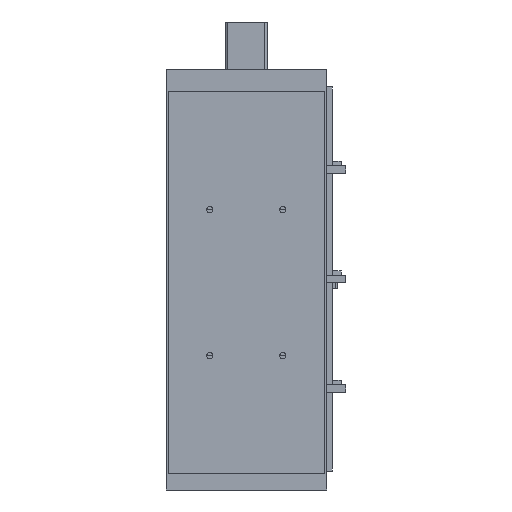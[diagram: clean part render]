
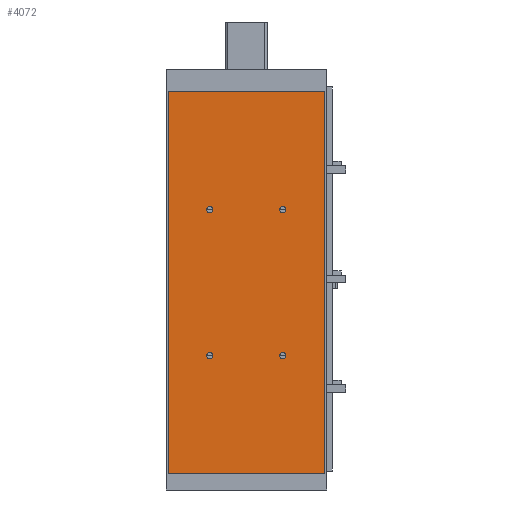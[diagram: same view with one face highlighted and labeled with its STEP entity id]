
A CAD part, front view. The second image highlights one B-rep face of the part: STEP entity #4072.
In plain terms, the highlighted planar face has unit normal (0, -1, 0).
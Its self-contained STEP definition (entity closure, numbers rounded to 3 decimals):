
#3162=CARTESIAN_POINT('',(-107.,0.0,524.0));
#3163=VERTEX_POINT('',#3162);
#3170=CARTESIAN_POINT('',(107.,0.0,524.0));
#3171=VERTEX_POINT('',#3170);
#3172=CARTESIAN_POINT('',(107.,0.0,524.0));
#3173=DIRECTION('',(-1.0,0.0,0.0));
#3174=VECTOR('',#3173,214.);
#3175=LINE('',#3172,#3174);
#3176=EDGE_CURVE('',#3171,#3163,#3175,.T.);
#3506=CARTESIAN_POINT('',(107.,0.0,0.0));
#3507=VERTEX_POINT('',#3506);
#3514=CARTESIAN_POINT('',(-107.,0.0,0.0));
#3515=VERTEX_POINT('',#3514);
#3516=CARTESIAN_POINT('',(-107.,0.0,0.0));
#3517=DIRECTION('',(1.0,0.0,0.0));
#3518=VECTOR('',#3517,214.);
#3519=LINE('',#3516,#3518);
#3520=EDGE_CURVE('',#3515,#3507,#3519,.T.);
#3626=CARTESIAN_POINT('',(45.751,0.0,162.));
#3627=VERTEX_POINT('',#3626);
#3628=CARTESIAN_POINT('',(50.001,0.0,162.));
#3629=DIRECTION('',(0.0,1.0,0.0));
#3630=DIRECTION('',(1.0,0.0,0.0));
#3631=AXIS2_PLACEMENT_3D('',#3628,#3629,#3630);
#3632=CIRCLE('',#3631,4.25);
#3633=EDGE_CURVE('',#3627,#3627,#3632,.T.);
#3667=CARTESIAN_POINT('',(-54.249,0.0,162.));
#3668=VERTEX_POINT('',#3667);
#3669=CARTESIAN_POINT('',(-49.999,0.0,162.));
#3670=DIRECTION('',(0.0,1.0,0.0));
#3671=DIRECTION('',(1.0,0.0,0.0));
#3672=AXIS2_PLACEMENT_3D('',#3669,#3670,#3671);
#3673=CIRCLE('',#3672,4.25);
#3674=EDGE_CURVE('',#3668,#3668,#3673,.T.);
#3846=CARTESIAN_POINT('',(45.751,0.0,362.0));
#3847=VERTEX_POINT('',#3846);
#3848=CARTESIAN_POINT('',(50.001,0.0,362.0));
#3849=DIRECTION('',(0.0,1.0,0.0));
#3850=DIRECTION('',(1.0,0.0,0.0));
#3851=AXIS2_PLACEMENT_3D('',#3848,#3849,#3850);
#3852=CIRCLE('',#3851,4.25);
#3853=EDGE_CURVE('',#3847,#3847,#3852,.T.);
#3956=CARTESIAN_POINT('',(-54.249,0.0,362.0));
#3957=VERTEX_POINT('',#3956);
#3958=CARTESIAN_POINT('',(-49.999,0.0,362.0));
#3959=DIRECTION('',(0.0,1.0,0.0));
#3960=DIRECTION('',(1.0,0.0,0.0));
#3961=AXIS2_PLACEMENT_3D('',#3958,#3959,#3960);
#3962=CIRCLE('',#3961,4.25);
#3963=EDGE_CURVE('',#3957,#3957,#3962,.T.);
#3983=CARTESIAN_POINT('',(107.,0.0,0.0));
#3984=DIRECTION('',(0.0,0.0,1.0));
#3985=VECTOR('',#3984,524.0);
#3986=LINE('',#3983,#3985);
#3987=EDGE_CURVE('',#3507,#3171,#3986,.T.);
#4005=CARTESIAN_POINT('',(-107.,0.0,0.0));
#4006=DIRECTION('',(0.0,0.0,1.0));
#4007=VECTOR('',#4006,524.0);
#4008=LINE('',#4005,#4007);
#4009=EDGE_CURVE('',#3515,#3163,#4008,.T.);
#4049=CARTESIAN_POINT('',(107.,0.0,0.0));
#4050=DIRECTION('',(0.0,-1.0,0.0));
#4051=DIRECTION('',(0.0,0.0,-1.0));
#4052=AXIS2_PLACEMENT_3D('',#4049,#4050,#4051);
#4053=PLANE('',#4052);
#4054=ORIENTED_EDGE('',*,*,#3176,.T.);
#4055=ORIENTED_EDGE('',*,*,#4009,.F.);
#4056=ORIENTED_EDGE('',*,*,#3520,.T.);
#4057=ORIENTED_EDGE('',*,*,#3987,.T.);
#4058=EDGE_LOOP('',(#4054,#4055,#4056,#4057));
#4059=FACE_OUTER_BOUND('',#4058,.T.);
#4060=ORIENTED_EDGE('',*,*,#3633,.T.);
#4061=EDGE_LOOP('',(#4060));
#4062=FACE_BOUND('',#4061,.T.);
#4063=ORIENTED_EDGE('',*,*,#3674,.T.);
#4064=EDGE_LOOP('',(#4063));
#4065=FACE_BOUND('',#4064,.T.);
#4066=ORIENTED_EDGE('',*,*,#3853,.T.);
#4067=EDGE_LOOP('',(#4066));
#4068=FACE_BOUND('',#4067,.T.);
#4069=ORIENTED_EDGE('',*,*,#3963,.T.);
#4070=EDGE_LOOP('',(#4069));
#4071=FACE_BOUND('',#4070,.T.);
#4072=ADVANCED_FACE('',(#4059,#4062,#4065,#4068,#4071),#4053,.T.);
